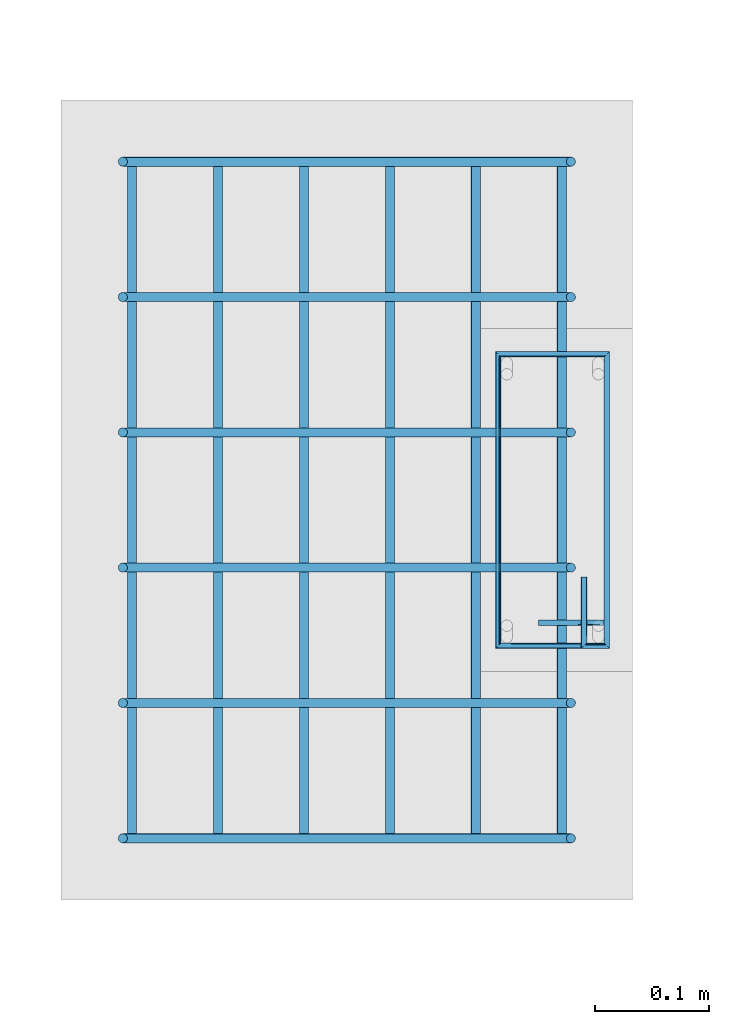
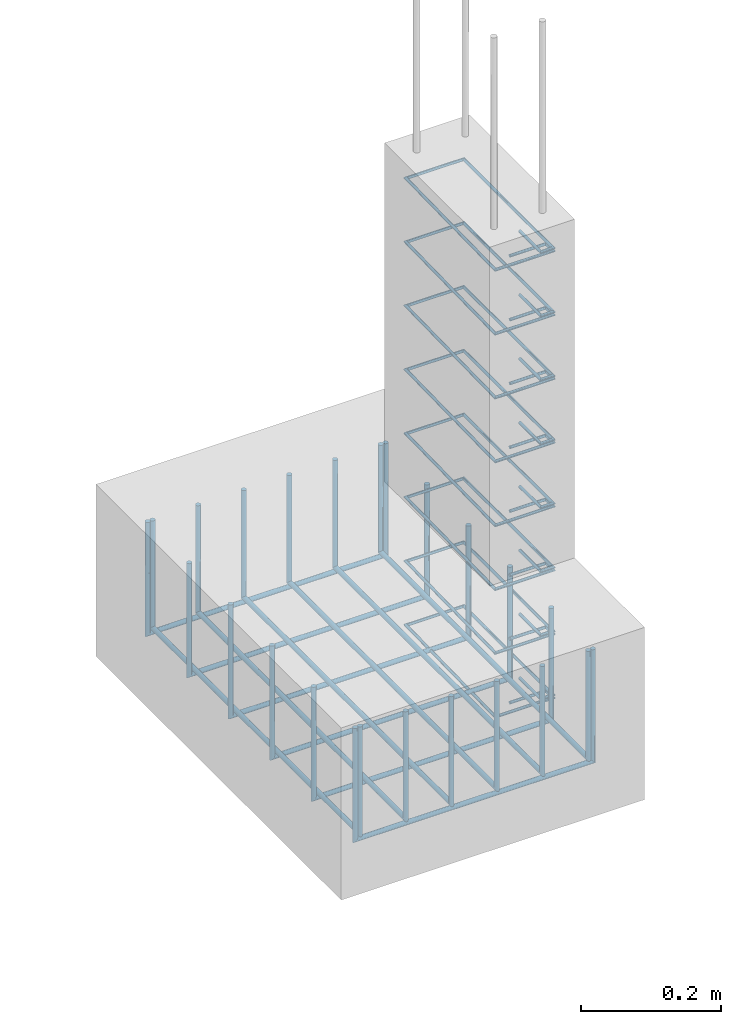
# One storey, part 100 of 119: 20 reinforcing bars.
"""IFC4 building model written with IfcOpenShell, lengths in centimetres."""

from ifc_helpers import new_model, entity, si_unit, derived_unit, frame, origin_with_axes, place, context, project, spatial, source, transform, mapped, element, save


model = new_model("IFC4")

# Units and contexts
model_context = context("Model", 3, precision=1e-05, world=origin_with_axes(), identifier="Body")
ifc_project = project(units=[si_unit("LENGTHUNIT", "METRE", prefix="CENTI"), si_unit("VOLUMEUNIT", "CUBIC_METRE"), si_unit("AREAUNIT", "SQUARE_METRE"), si_unit("POWERUNIT", "WATT"), si_unit("LUMINOUSFLUXUNIT", "LUMEN"), si_unit("ELECTRICCURRENTUNIT", "AMPERE"), si_unit("PRESSUREUNIT", "PASCAL", prefix="KILO"), si_unit("MASSUNIT", "GRAM", prefix="KILO"), si_unit("PLANEANGLEUNIT", "RADIAN"), derived_unit("VOLUMETRICFLOWRATEUNIT", [(si_unit("LENGTHUNIT", "METRE"), 3), (si_unit("TIMEUNIT", "SECOND"), -1)])], contexts=[model_context])

# Site, building, storey
site_placement = place(None, frame((-4000.0, 0.0, 0.0), z_axis=(0.0, 0.0, 1.0), x_axis=(1.0, 0.0, 0.0)))
site = spatial("IfcSite", under=ifc_project, at=site_placement, Name="PADRÃO")
building_placement = place(site_placement, frame((0.0, 0.0, -14.0)))
building = spatial("IfcBuilding", under=site, at=building_placement, Name="CRECHE PRÉ-ESCOLA TIPO 2")
storey_placement = place(building_placement, origin_with_axes())
storey = spatial("IfcBuildingStorey", under=building, at=storey_placement, Name="FUNDAÇÃO", CompositionType="ELEMENT", Elevation=-14.0)

# Reinforcing bars
shared_shape_1 = source(origin_with_axes(), model_context, "Body", "AdvancedSweptSolid", [
    entity("IfcSweptDiskSolid", entity("IfcCompositeCurve", [entity("IfcCompositeCurveSegment", "CONTINUOUS", True, entity("IfcPolyline", [entity("IfcCartesianPoint", [4.25, 21.75, 0.0]), entity("IfcCartesianPoint", [4.25, 27.75, 0.0])])), entity("IfcCompositeCurveSegment", "CONTINUOUS", True, entity("IfcPolyline", [entity("IfcCartesianPoint", [4.25, 27.75, 0.0]), entity("IfcCartesianPoint", [2.25, 27.75, 0.0])])), entity("IfcCompositeCurveSegment", "CONTINUOUS", True, entity("IfcPolyline", [entity("IfcCartesianPoint", [2.25, 27.75, 0.0]), entity("IfcCartesianPoint", [2.25, 2.25, 0.0])])), entity("IfcCompositeCurveSegment", "CONTINUOUS", True, entity("IfcPolyline", [entity("IfcCartesianPoint", [2.25, 2.25, 0.0]), entity("IfcCartesianPoint", [11.75, 2.25, 0.0])])), entity("IfcCompositeCurveSegment", "CONTINUOUS", True, entity("IfcPolyline", [entity("IfcCartesianPoint", [11.75, 2.25, 0.0]), entity("IfcCartesianPoint", [11.75, 27.75, -0.5])])), entity("IfcCompositeCurveSegment", "CONTINUOUS", True, entity("IfcPolyline", [entity("IfcCartesianPoint", [11.75, 27.75, -0.5]), entity("IfcCartesianPoint", [2.25, 27.75, -0.5])])), entity("IfcCompositeCurveSegment", "CONTINUOUS", True, entity("IfcPolyline", [entity("IfcCartesianPoint", [2.25, 27.75, -0.5]), entity("IfcCartesianPoint", [2.25, 25.75, -0.5])])), entity("IfcCompositeCurveSegment", "CONTINUOUS", True, entity("IfcPolyline", [entity("IfcCartesianPoint", [2.25, 25.75, -0.5]), entity("IfcCartesianPoint", [8.25, 25.75, -0.5])]))], False), 0.25),
])
for number, where, z_axis, x_axis, name in (
    (1, (3999.0, 2929.5, -16.6875), (0.0, 0.0, 1.0), (-1.0, 0.0, 0.0), "P63 - Estribo"),
    (2, (3999.0, 2929.5, -27.8125), (0.0, 0.0, 1.0), (-1.0, 0.0, 0.0), "P63 - Estribo"),
    (3, (3999.0, 2929.5, -38.9375), (0.0, 0.0, 1.0), (-1.0, 0.0, 0.0), "P63 - Estribo"),
    (4, (3999.0, 2929.5, -61.1875), (0.0, 0.0, 1.0), (-1.0, 0.0, 0.0), "P63 - Estribo"),
    (5, (3999.0, 2929.5, -72.3125), (0.0, 0.0, 1.0), (-1.0, 0.0, 0.0), "P63 - Estribo"),
    (6, (3999.0, 2929.5, -50.0625), (0.0, 0.0, 1.0), (-1.0, 0.0, 0.0), "P63 - Estribo"),
    (7, (3999.0, 2929.5, -5.5625), (0.0, 0.0, 1.0), (-1.0, 0.0, 0.0), "P63 - Estribo"),
    (8, (3999.0, 2929.5, -83.4375), (0.0, 0.0, 1.0), (-1.0, 0.0, 0.0), "P63 - Estribo"),
):
    element("IfcReinforcingBar", number, at=place(storey_placement, frame(where, z_axis=z_axis, x_axis=x_axis)), inside=storey, Name=name, BarLength=0.0, CrossSectionArea=1.9634954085e-05, NominalDiameter=0.5, PredefinedType="MAIN", context=model_context, shape_type="MappedRepresentation", body=[
        mapped(shared_shape_1, transform((0.0, 0.0, 0.0), scale=1.0)),
    ])
shared_shape_2 = source(origin_with_axes(), model_context, "Body", "AdvancedSweptSolid", [
    entity("IfcSweptDiskSolid", entity("IfcCompositeCurve", [entity("IfcCompositeCurveSegment", "CONTINUOUS", True, entity("IfcPolyline", [entity("IfcCartesianPoint", [0.0, 0.0, 19.6]), entity("IfcCartesianPoint", [0.0, 0.0, 0.0])])), entity("IfcCompositeCurveSegment", "CONTINUOUS", True, entity("IfcPolyline", [entity("IfcCartesianPoint", [0.0, 0.0, 0.0]), entity("IfcCartesianPoint", [39.2, 0.0, 0.0])])), entity("IfcCompositeCurveSegment", "CONTINUOUS", True, entity("IfcPolyline", [entity("IfcCartesianPoint", [39.2, 0.0, 0.0]), entity("IfcCartesianPoint", [39.2, 0.0, 19.6])]))], False), 0.4),
])
for number, where, z_axis, x_axis, name in (
    (9, (3993.6, 2932.26, -83.6), (0.0, 0.0, 1.0), (-1.0, 0.0, 0.0), "P63 - Sapatas (inferior)"),
    (10, (3993.6, 2944.1, -83.6), (0.0, 0.0, 1.0), (-1.0, 0.0, 0.0), "P63 - Sapatas (inferior)"),
    (11, (3993.6, 2920.42, -83.6), (0.0, 0.0, 1.0), (-1.0, 0.0, 0.0), "P63 - Sapatas (inferior)"),
    (12, (3993.6, 2908.58, -83.6), (0.0, 0.0, 1.0), (-1.0, 0.0, 0.0), "P63 - Sapatas (inferior)"),
    (13, (3993.6, 2896.74, -83.6), (0.0, 0.0, 1.0), (-1.0, 0.0, 0.0), "P63 - Sapatas (inferior)"),
    (14, (3993.6, 2884.9, -83.6), (0.0, 0.0, 1.0), (-1.0, 0.0, 0.0), "P63 - Sapatas (inferior)"),
):
    element("IfcReinforcingBar", number, at=place(storey_placement, frame(where, z_axis=z_axis, x_axis=x_axis)), inside=storey, Name=name, BarLength=0.0, CrossSectionArea=5.0265482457e-05, NominalDiameter=0.8, PredefinedType="MAIN", context=model_context, shape_type="MappedRepresentation", body=[
        mapped(shared_shape_2, transform((0.0, 0.0, 0.0), scale=1.0)),
    ])
shared_shape_3 = source(origin_with_axes(), model_context, "Body", "AdvancedSweptSolid", [
    entity("IfcSweptDiskSolid", entity("IfcCompositeCurve", [entity("IfcCompositeCurveSegment", "CONTINUOUS", True, entity("IfcPolyline", [entity("IfcCartesianPoint", [0.0, 0.0, 18.8]), entity("IfcCartesianPoint", [0.0, 0.0, 0.0])])), entity("IfcCompositeCurveSegment", "CONTINUOUS", True, entity("IfcPolyline", [entity("IfcCartesianPoint", [0.0, 0.0, 0.0]), entity("IfcCartesianPoint", [0.0, 59.2, 0.0])])), entity("IfcCompositeCurveSegment", "CONTINUOUS", True, entity("IfcPolyline", [entity("IfcCartesianPoint", [0.0, 59.2, 0.0]), entity("IfcCartesianPoint", [0.0, 59.2, 18.8])]))], False), 0.4),
])
for number, where, z_axis, x_axis, name in (
    (15, (3992.8, 2944.1, -82.8), (0.0, 0.0, 1.0), (-1.0, 0.0, 0.0), "P63 - Sapatas (inferior)"),
    (16, (3985.28, 2944.1, -82.8), (0.0, 0.0, 1.0), (-1.0, 0.0, 0.0), "P63 - Sapatas (inferior)"),
    (17, (3977.76, 2944.1, -82.8), (0.0, 0.0, 1.0), (-1.0, 0.0, 0.0), "P63 - Sapatas (inferior)"),
    (18, (3970.24, 2944.1, -82.8), (0.0, 0.0, 1.0), (-1.0, 0.0, 0.0), "P63 - Sapatas (inferior)"),
    (19, (3962.72, 2944.1, -82.8), (0.0, 0.0, 1.0), (-1.0, 0.0, 0.0), "P63 - Sapatas (inferior)"),
    (20, (3955.2, 2944.1, -82.8), (0.0, 0.0, 1.0), (-1.0, 0.0, 0.0), "P63 - Sapatas (inferior)"),
):
    element("IfcReinforcingBar", number, at=place(storey_placement, frame(where, z_axis=z_axis, x_axis=x_axis)), inside=storey, Name=name, BarLength=0.0, CrossSectionArea=5.0265482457e-05, NominalDiameter=0.8, PredefinedType="MAIN", context=model_context, shape_type="MappedRepresentation", body=[
        mapped(shared_shape_3, transform((0.0, 0.0, 0.0), scale=1.0)),
    ])

save(model, "model.ifc")
